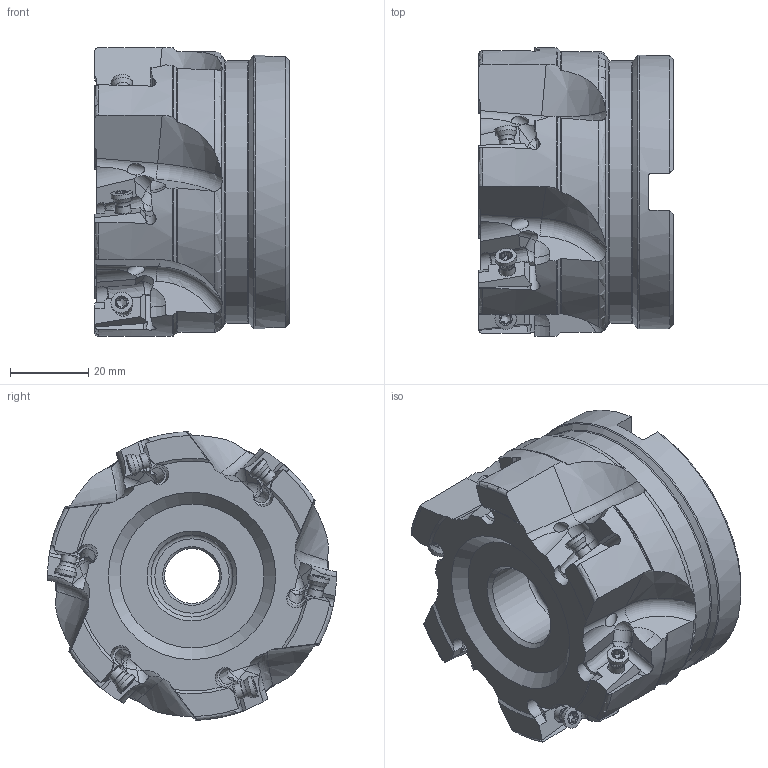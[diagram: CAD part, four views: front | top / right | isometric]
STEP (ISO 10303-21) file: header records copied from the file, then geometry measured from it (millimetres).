
FILE_DESCRIPTION(/* description */ (''),/* implementation_level */ '2;1');
FILE_NAME(/* name */ 'emp13-3.00''''-a1.00''''-an15-06c.stp',/* time_stamp */ '2020-03-23T11:15:39+08:00',/* author */ (''),/* organization */ (''),/* preprocessor_version */ 'ST-DEVELOPER v11',/* originating_system */ 'UGS - NX 5.0',/* authorisation */ '');
FILE_SCHEMA (('AUTOMOTIVE_DESIGN { 1 0 10303 214 1 1 1 1 }'));
Length unit declared in the file: millimetre
Products named in the file (1): zhanDF31mmaj
Bounding box: 49.8 x 73.8 x 73.77 mm (x, y, z)
Volume: 145624 mm3; surface area: 27200.6 mm2
Topology: 7 solids, 7 shells, 524 faces, 1406 edges, 882 vertices
Faces by surface type: cylinder 190, plane 188, cone 71, torus 45, sphere 18, bspline 6, extrusion 6
Full cylindrical faces by diameter (mm): 3 x6, 3.432 x6, 3.7 x6, 3.838 x6, 5.5 x6, 14 x1, 21 x1, 25.4 x1, 27.4 x1, 67 x1, 70 x1
Entity records: 18231 total; most frequent: CARTESIAN_POINT 5825, DIRECTION 2666, ORIENTED_EDGE 2504, EDGE_CURVE 1252, AXIS2_PLACEMENT_3D 1189, VERTEX_POINT 844, EDGE_LOOP 628, CIRCLE 550
